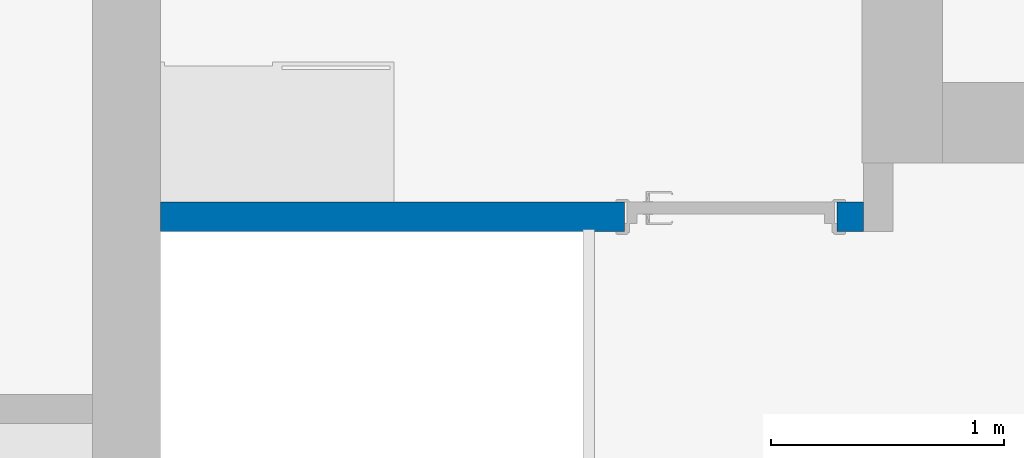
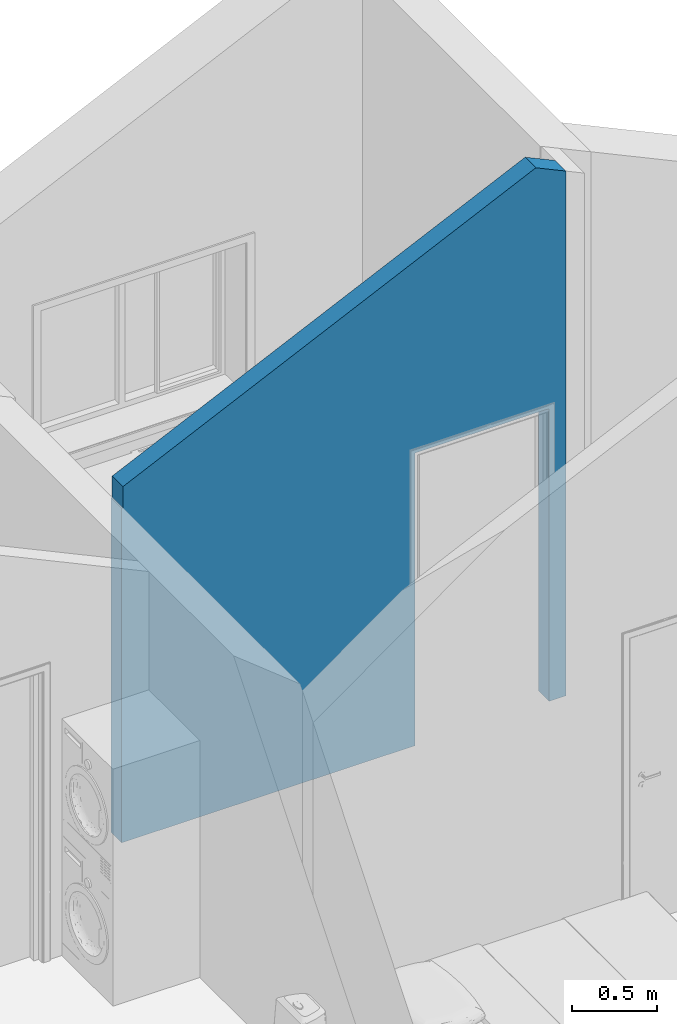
# One storey, part 26 of 44: 1 wall, 1 opening.
"""IFC2X3 building model written with IfcOpenShell, lengths in millimetres."""

from ifc_helpers import new_model, entity, si_unit, converted_unit, direction, frame, frame_2d, origin, place, context, subcontext, project, spatial, polyline, rectangle, extrude, clip, bounded_halfspace, material, layer, layer_set, layer_usage, type_object, element, save


model = new_model("IFC2X3")

# Units and contexts
model_context = context("Model", 3, precision=0.01, world=origin(), true_north=direction((0.0, 1.0)))
body_context = subcontext(model_context, "Body", "Model", "MODEL_VIEW")
ifc_project = project(units=[si_unit("LENGTHUNIT", "METRE", prefix="MILLI"), si_unit("AREAUNIT", "SQUARE_METRE"), si_unit("VOLUMEUNIT", "CUBIC_METRE"), converted_unit("PLANEANGLEUNIT", "DEGREE", entity("IfcPlaneAngleMeasure", 0.017453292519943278), si_unit("PLANEANGLEUNIT", "RADIAN"), dimensions=[0, 0, 0, 0, 0, 0, 0])], contexts=[model_context])

# Site, building, storey
site_placement = place(None, origin())
site = spatial("IfcSite", under=ifc_project, at=site_placement, Name="Default", CompositionType="ELEMENT")
building_placement = place(site_placement, origin())
building = spatial("IfcBuilding", under=site, at=building_placement, CompositionType="ELEMENT")
storey_placement = place(building_placement, frame((0.0, 0.0, 2681.0)))
storey = spatial("IfcBuildingStorey", under=building, at=storey_placement, Name="Et. 2", CompositionType="ELEMENT", Elevation=2681.0)

# Wall, opening
ifc_material_1 = material(Name="Vegg - Gips - Innvendig - Hvit")
ifc_layer_1 = layer(ifc_material_1, 13.000000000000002)
ifc_material_2 = material(Name="Vegg - Stender - Stål - Isolert")
ifc_layer_2 = layer(ifc_material_2, 100.0)
ifc_layer_3 = layer(ifc_material_1, 13.000000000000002)
ifc_layer_set = layer_set([ifc_layer_1, ifc_layer_2, ifc_layer_3], Name="Basic Wall:24-GSIG-13_100_13")
ifc_layer_usage = layer_usage(ifc_layer_set, "AXIS2", "NEGATIVE", 63.00000000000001)
wall_type = type_object("IfcWallType", Name="Basic Wall:24-GSIG-13_100_13", PredefinedType="STANDARD", material=ifc_layer_set)
wall_placement = place(storey_placement, frame((28324.009586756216, 13419.18095768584, 0.0)))
wall = element("IfcWallStandardCase", 1, at=wall_placement, inside=storey, type_object=wall_type, material=ifc_layer_usage, Name="Basic Wall:24-GSIG-13_100_13", context=body_context, shape_type="Clipping", body=[
    clip(clip(clip(extrude(rectangle(XDim=3013.9999999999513, YDim=126.00000000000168, at=frame_2d((1506.9999999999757, -1.5631940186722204e-13), x_axis=(-1.0, 0.0))), origin(), (0.0, 0.0, 1.0), 3859.5429700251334), bounded_halfspace(frame((2811.0, -63.0, 3859.5429700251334), z_axis=(0.42261826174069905, 0.0, 0.9063077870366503), x_axis=(0.0, 1.0, 0.0)), False, frame((2811.0, -63.0, 3859.5429700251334)), polyline([(0.0, 0.0), (203.0, 0.0), (203.0, 126.0), (0.0, 126.0), (0.0, 0.0)]))), bounded_halfspace(frame((8.0, -63.0, 2552.4826042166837), z_axis=(-0.42261826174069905, 0.0, 0.9063077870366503), x_axis=(0.0, -1.0, 0.0)), False, frame((8.0, -63.0, 2552.4826042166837)), polyline([(0.0, 0.0), (2803.0, 0.0), (2803.0, 126.0), (0.0, 126.0), (0.0, 0.0)]))), bounded_halfspace(frame((0.0, -63.0, 2400.0), z_axis=(0.0, 0.0, 1.0), x_axis=(0.0, 1.0, 0.0)), False, frame((0.0, -63.0, 2400.0)), polyline([(0.0, 0.0), (8.0, 0.0), (8.0, 126.0), (0.0, 126.0), (0.0, 0.0)]))),
])
opening_placement = place(wall_placement, frame((1990.0, -63.0, 0.0)))
element("IfcOpeningElement", 2, at=opening_placement, cuts=wall, Name="ID Hel:9x21M:1", ObjectType="Opening", context=body_context, shape_type="SweptSolid", body=[
    extrude(rectangle(XDim=910.0000000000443, YDim=2100.0000000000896, at=frame_2d((1050.0000000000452, 455.00000000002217), x_axis=(0.0, 1.0))), frame((0.0, 0.0, 0.0), z_axis=(0.0, 1.0, 0.0), x_axis=(0.0, 0.0, 1.0)), (0.0, 0.0, 1.0), 126.00000000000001),
])

save(model, "model.ifc")
